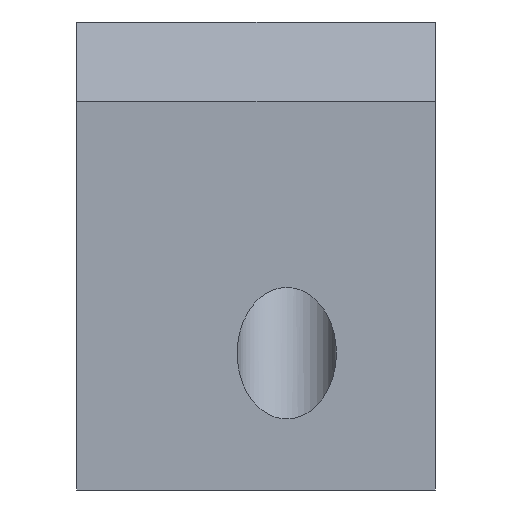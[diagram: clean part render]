
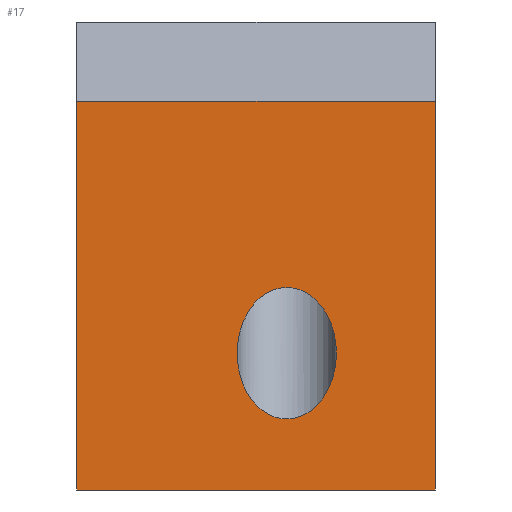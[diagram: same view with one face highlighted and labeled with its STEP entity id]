
A CAD part, left-side view. The second image highlights one B-rep face of the part: STEP entity #17.
In plain terms, the highlighted planar face has unit normal (-1, 0, 0).
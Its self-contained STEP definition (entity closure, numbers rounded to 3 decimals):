
#17 = ADVANCED_FACE('',(#18,#52),#63,.F.);
#18 = FACE_BOUND('',#19,.F.);
#19 = EDGE_LOOP('',(#20,#30,#38,#46));
#20 = ORIENTED_EDGE('',*,*,#21,.F.);
#21 = EDGE_CURVE('',#22,#24,#26,.T.);
#22 = VERTEX_POINT('',#23);
#23 = CARTESIAN_POINT('',(-13.888,14.8,28.109));
#24 = VERTEX_POINT('',#25);
#25 = CARTESIAN_POINT('',(-13.888,14.8,12.053));
#26 = LINE('',#27,#28);
#27 = CARTESIAN_POINT('',(-13.888,14.8,28.109));
#28 = VECTOR('',#29,1.);
#29 = DIRECTION('',(0.,0.,-1.));
#30 = ORIENTED_EDGE('',*,*,#31,.T.);
#31 = EDGE_CURVE('',#22,#32,#34,.T.);
#32 = VERTEX_POINT('',#33);
#33 = CARTESIAN_POINT('',(-13.888,0.,28.109));
#34 = LINE('',#35,#36);
#35 = CARTESIAN_POINT('',(-13.888,14.8,28.109));
#36 = VECTOR('',#37,1.);
#37 = DIRECTION('',(0.,-1.,0.));
#38 = ORIENTED_EDGE('',*,*,#39,.T.);
#39 = EDGE_CURVE('',#32,#40,#42,.T.);
#40 = VERTEX_POINT('',#41);
#41 = CARTESIAN_POINT('',(-13.888,0.,12.053));
#42 = LINE('',#43,#44);
#43 = CARTESIAN_POINT('',(-13.888,0.,28.109));
#44 = VECTOR('',#45,1.);
#45 = DIRECTION('',(0.,0.,-1.));
#46 = ORIENTED_EDGE('',*,*,#47,.F.);
#47 = EDGE_CURVE('',#24,#40,#48,.T.);
#48 = LINE('',#49,#50);
#49 = CARTESIAN_POINT('',(-13.888,14.8,12.053));
#50 = VECTOR('',#51,1.);
#51 = DIRECTION('',(0.,-1.,0.));
#52 = FACE_BOUND('',#53,.F.);
#53 = EDGE_LOOP('',(#54));
#54 = ORIENTED_EDGE('',*,*,#55,.F.);
#55 = EDGE_CURVE('',#56,#56,#58,.T.);
#56 = VERTEX_POINT('',#57);
#57 = CARTESIAN_POINT('',(-13.888,6.13,14.988));
#58 = ELLIPSE('',#59,2.716,2.05);
#59 = AXIS2_PLACEMENT_3D('',#60,#61,#62);
#60 = CARTESIAN_POINT('',(-13.888,6.13,17.704));
#61 = DIRECTION('',(1.,0.,0.));
#62 = DIRECTION('',(0.,0.,-1.));
#63 = PLANE('',#64);
#64 = AXIS2_PLACEMENT_3D('',#65,#66,#67);
#65 = CARTESIAN_POINT('',(-13.888,14.8,28.109));
#66 = DIRECTION('',(1.,0.,0.));
#67 = DIRECTION('',(0.,0.,-1.));
